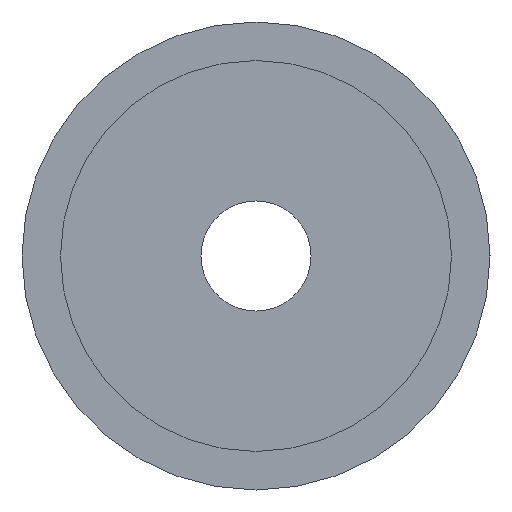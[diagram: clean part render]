
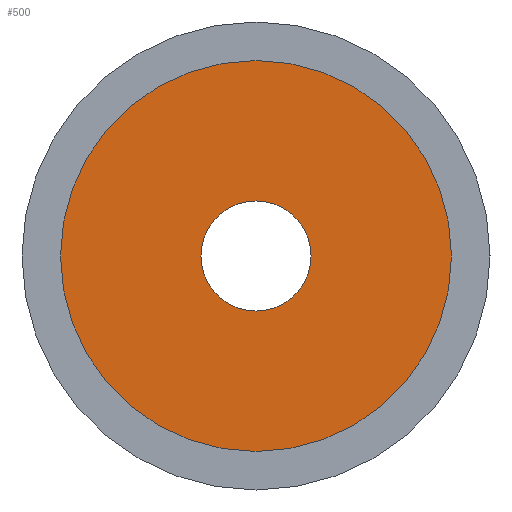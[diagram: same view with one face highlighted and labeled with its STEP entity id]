
A CAD part, left-side view. The second image highlights one B-rep face of the part: STEP entity #500.
In plain terms, the highlighted planar face has unit normal (-1, 0, 0).
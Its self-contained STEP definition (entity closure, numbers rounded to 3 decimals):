
#43 = CYLINDRICAL_SURFACE('',#44,14.2);
#44 = AXIS2_PLACEMENT_3D('',#45,#46,#47);
#45 = CARTESIAN_POINT('',(15.5,0.,0.));
#46 = DIRECTION('',(-1.,-0.,-0.));
#47 = DIRECTION('',(0.,1.,0.));
#434 = CYLINDRICAL_SURFACE('',#435,4.);
#435 = AXIS2_PLACEMENT_3D('',#436,#437,#438);
#436 = CARTESIAN_POINT('',(17.5,0.,0.));
#437 = DIRECTION('',(-1.,-0.,-0.));
#438 = DIRECTION('',(0.,1.,0.));
#451 = VERTEX_POINT('',#452);
#452 = CARTESIAN_POINT('',(15.5,4.,0.));
#473 = EDGE_CURVE('',#451,#451,#474,.T.);
#474 = SURFACE_CURVE('',#475,(#480,#487),.PCURVE_S1.);
#475 = CIRCLE('',#476,4.);
#476 = AXIS2_PLACEMENT_3D('',#477,#478,#479);
#477 = CARTESIAN_POINT('',(15.5,0.,0.));
#478 = DIRECTION('',(1.,0.,0.));
#479 = DIRECTION('',(-0.,1.,0.));
#480 = PCURVE('',#434,#481);
#481 = DEFINITIONAL_REPRESENTATION('',(#482),#486);
#482 = LINE('',#483,#484);
#483 = CARTESIAN_POINT('',(-0.,2.));
#484 = VECTOR('',#485,1.);
#485 = DIRECTION('',(-1.,0.));
#486 = ( GEOMETRIC_REPRESENTATION_CONTEXT(2) 
PARAMETRIC_REPRESENTATION_CONTEXT() REPRESENTATION_CONTEXT('2D SPACE',''
  ) );
#487 = PCURVE('',#488,#493);
#488 = PLANE('',#489);
#489 = AXIS2_PLACEMENT_3D('',#490,#491,#492);
#490 = CARTESIAN_POINT('',(15.5,0.,0.));
#491 = DIRECTION('',(1.,0.,0.));
#492 = DIRECTION('',(-0.,1.,0.));
#493 = DEFINITIONAL_REPRESENTATION('',(#494),#498);
#494 = CIRCLE('',#495,4.);
#495 = AXIS2_PLACEMENT_2D('',#496,#497);
#496 = CARTESIAN_POINT('',(0.,0.));
#497 = DIRECTION('',(1.,-0.));
#498 = ( GEOMETRIC_REPRESENTATION_CONTEXT(2) 
PARAMETRIC_REPRESENTATION_CONTEXT() REPRESENTATION_CONTEXT('2D SPACE',''
  ) );
#500 = ADVANCED_FACE('',(#501,#504),#488,.F.);
#501 = FACE_BOUND('',#502,.T.);
#502 = EDGE_LOOP('',(#503));
#503 = ORIENTED_EDGE('',*,*,#473,.T.);
#504 = FACE_BOUND('',#505,.T.);
#505 = EDGE_LOOP('',(#506));
#506 = ORIENTED_EDGE('',*,*,#507,.F.);
#507 = EDGE_CURVE('',#508,#508,#510,.T.);
#508 = VERTEX_POINT('',#509);
#509 = CARTESIAN_POINT('',(15.5,14.2,0.));
#510 = SURFACE_CURVE('',#511,(#516,#523),.PCURVE_S1.);
#511 = CIRCLE('',#512,14.2);
#512 = AXIS2_PLACEMENT_3D('',#513,#514,#515);
#513 = CARTESIAN_POINT('',(15.5,0.,0.));
#514 = DIRECTION('',(1.,0.,0.));
#515 = DIRECTION('',(-0.,1.,0.));
#516 = PCURVE('',#488,#517);
#517 = DEFINITIONAL_REPRESENTATION('',(#518),#522);
#518 = CIRCLE('',#519,14.2);
#519 = AXIS2_PLACEMENT_2D('',#520,#521);
#520 = CARTESIAN_POINT('',(0.,0.));
#521 = DIRECTION('',(1.,-0.));
#522 = ( GEOMETRIC_REPRESENTATION_CONTEXT(2) 
PARAMETRIC_REPRESENTATION_CONTEXT() REPRESENTATION_CONTEXT('2D SPACE',''
  ) );
#523 = PCURVE('',#43,#524);
#524 = DEFINITIONAL_REPRESENTATION('',(#525),#529);
#525 = LINE('',#526,#527);
#526 = CARTESIAN_POINT('',(-0.,0.));
#527 = VECTOR('',#528,1.);
#528 = DIRECTION('',(-1.,0.));
#529 = ( GEOMETRIC_REPRESENTATION_CONTEXT(2) 
PARAMETRIC_REPRESENTATION_CONTEXT() REPRESENTATION_CONTEXT('2D SPACE',''
  ) );
